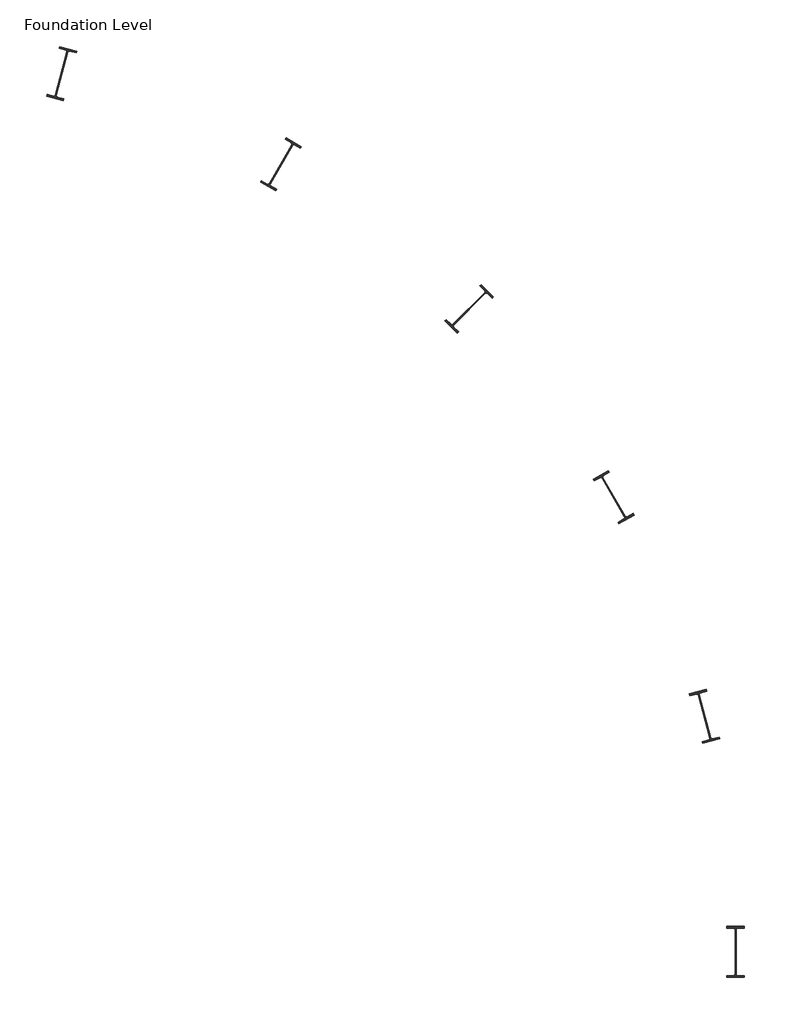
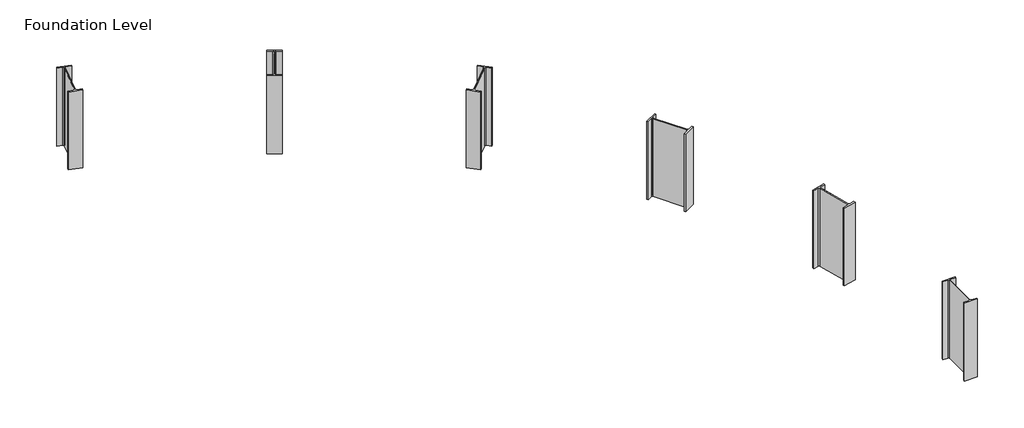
# One storey: 6 columns.
"""IFC4 building model written with IfcOpenShell, lengths in millimetres."""

from ifc_helpers import new_model, si_unit, origin, place, context, project, spatial, transform, mapped, element, save
from components import w840x251_0592dfe8

model = new_model("IFC4")

# Units and contexts
model_context = context("Model", 3, world=origin())
ifc_project = project(units=[si_unit("LENGTHUNIT", "METRE", prefix="MILLI")], contexts=[model_context])

# Site, building, storey
site = spatial("IfcSite", under=ifc_project)
building = spatial("IfcBuilding", under=site)
storey = spatial("IfcBuildingStorey", under=building, Name="Foundation Level", Elevation=-1829.0)

# Columns
placement = place(None, origin())
w840x251_shape = w840x251_0592dfe8(model_context)
element("IfcColumn", 1, ObjectType="M_W-Wide Flange-Column : W840X251", at=placement, inside=storey, context=model_context, shape_type="MappedRepresentation", body=[
    mapped(w840x251_shape, transform((4731.0964681, -18902.8363965, 0.0), x_axis=(1.0, 0.0, 0.0), y_axis=(0.0, 1.0, 0.0), z_axis=(0.0, 0.0, 1.0))),
])
element("IfcColumn", 2, ObjectType="M_W-Wide Flange-Column : W840X251", at=placement, inside=storey, context=model_context, shape_type="MappedRepresentation", body=[
    mapped(w840x251_shape, transform((4211.8060608, -14958.4341491, 0.0), x_axis=(0.9659258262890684, 0.25881904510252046, 0.0), y_axis=(-0.25881904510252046, 0.9659258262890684, 0.0), z_axis=(0.0, 0.0, 1.0))),
])
element("IfcColumn", 3, ObjectType="M_W-Wide Flange-Column : W840X251", at=placement, inside=storey, context=model_context, shape_type="MappedRepresentation", body=[
    mapped(w840x251_shape, transform((2689.3236218, -11282.8363965, 0.0), x_axis=(0.8660254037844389, 0.4999999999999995, 0.0), y_axis=(-0.4999999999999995, 0.8660254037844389, 0.0), z_axis=(0.0, 0.0, 1.0))),
])
element("IfcColumn", 4, ObjectType="M_W-Wide Flange-Column : W840X251", at=placement, inside=storey, context=model_context, shape_type="MappedRepresentation", body=[
    mapped(w840x251_shape, transform((267.4038134, -8126.5290512, 0.0), x_axis=(0.7071067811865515, -0.7071067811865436, 0.0), y_axis=(0.7071067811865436, 0.7071067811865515, 0.0), z_axis=(0.0, 0.0, 1.0))),
])
element("IfcColumn", 5, ObjectType="M_W-Wide Flange-Column : W840X251", at=placement, inside=storey, context=model_context, shape_type="MappedRepresentation", body=[
    mapped(w840x251_shape, transform((-2888.9035319, -5704.6092428, 0.0), x_axis=(0.8660254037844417, -0.49999999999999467, 0.0), y_axis=(0.49999999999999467, 0.8660254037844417, 0.0), z_axis=(0.0, 0.0, 1.0))),
])
element("IfcColumn", 6, ObjectType="M_W-Wide Flange-Column : W840X251", at=placement, inside=storey, context=model_context, shape_type="MappedRepresentation", body=[
    mapped(w840x251_shape, transform((-6564.5012845, -4182.1268039, 0.0), x_axis=(0.9659258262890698, -0.25881904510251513, 0.0), y_axis=(0.25881904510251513, 0.9659258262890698, 0.0), z_axis=(0.0, 0.0, 1.0))),
])

save(model, "model.ifc")
